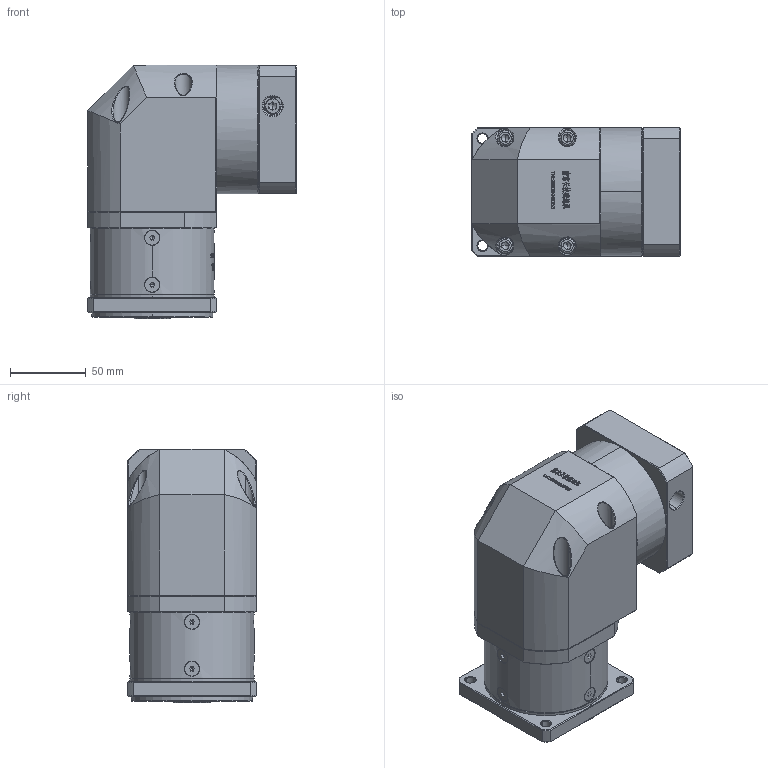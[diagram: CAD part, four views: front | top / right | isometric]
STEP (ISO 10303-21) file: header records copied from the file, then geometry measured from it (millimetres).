
FILE_DESCRIPTION (( 'STEP AP214' ), '1' );
FILE_NAME ('ZF80-K15-L1-14-60-75-M5.step', '2022-05-08T12:02:18', ( '' ), ( 'Microsoft' ), 'SwSTEP 2.0', 'SolidWorks 2016', '' );
FILE_SCHEMA (( 'AUTOMOTIVE_DESIGN' ));
Length unit declared in the file: millimetre
Products named in the file (1): ZF80-K15-L1-14-60-75-M5
Bounding box: 137.6 x 85 x 167.5 mm (x, y, z)
Volume: 1243969.7 mm3; surface area: 133200.8 mm2
Topology: 13 solids, 13 shells, 3045 faces, 8012 edges, 5113 vertices
Faces by surface type: plane 1631, bspline 614, cylinder 439, cone 347, torus 14
Entity records: 161984 total; most frequent: CARTESIAN_POINT 58996, ORIENTED_EDGE 15936, DIRECTION 11981, EDGE_CURVE 7968, VERTEX_POINT 5113, LINE 4999, VECTOR 4999, AXIS2_PLACEMENT_3D 3491
